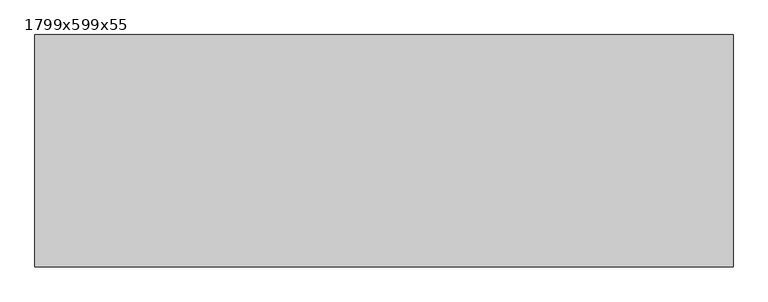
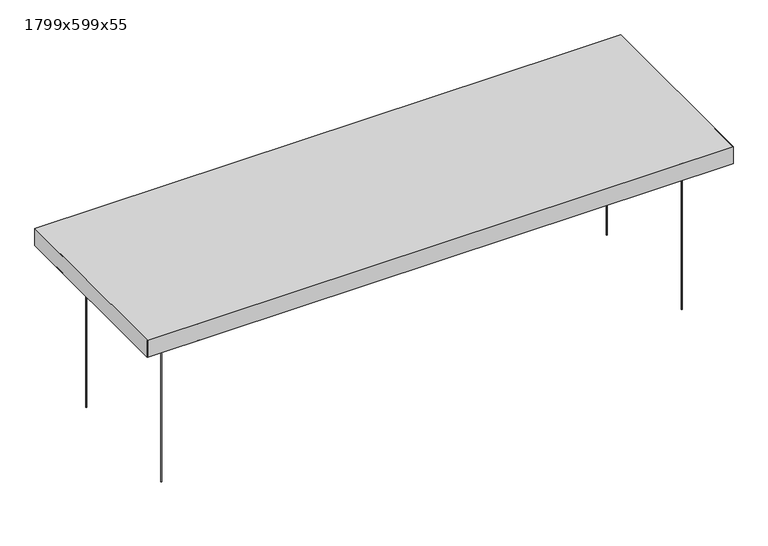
"""IFC4 building model written with IfcOpenShell, lengths in millimetres: proxy geometry, Texaa Panneaux_acoustiques Stereo suspendus_séparés : 1799x599x55."""

from ifc_helpers import new_model, si_unit, point, frame, frame_2d, origin, origin_with_axes, place, context, project, spatial, polyline, circle_curve, trimmed, segment, composite_curve, outline, extrude, faceted_brep, source, transform, mapped, element, save


def proxy_1799x599x55_415995dc(model_context):
    return source(origin(), model_context, "Body", "SolidModel", [
        extrude(outline(composite_curve([segment(trimmed(circle_curve(frame_2d((-799.5, -199.5)), 0.75), [point((-800.25, -199.5))], [point((-798.75, -199.5))], False, "CARTESIAN"), True, "CONTINUOUS"), segment(trimmed(circle_curve(frame_2d((-799.5, -199.5)), 0.75), [point((-798.75, -199.5))], [point((-800.25, -199.5))], False, "CARTESIAN"), True, "CONTINUOUS")], self_intersect=False)), origin_with_axes(), (0.0, 0.0, 1.0), 500.0),
        extrude(outline(composite_curve([segment(trimmed(circle_curve(frame_2d((799.5, -199.5)), 0.75), [point((798.75, -199.5))], [point((800.25, -199.5))], False, "CARTESIAN"), True, "CONTINUOUS"), segment(trimmed(circle_curve(frame_2d((799.5, -199.5)), 0.75), [point((800.25, -199.5))], [point((798.75, -199.5))], False, "CARTESIAN"), True, "CONTINUOUS")], self_intersect=False)), origin_with_axes(), (0.0, 0.0, 1.0), 500.0),
        extrude(outline(composite_curve([segment(trimmed(circle_curve(frame_2d((799.5, 199.5)), 0.75), [point((798.75, 199.5))], [point((800.25, 199.5))], False, "CARTESIAN"), True, "CONTINUOUS"), segment(trimmed(circle_curve(frame_2d((799.5, 199.5)), 0.75), [point((800.25, 199.5))], [point((798.75, 199.5))], False, "CARTESIAN"), True, "CONTINUOUS")], self_intersect=False)), origin_with_axes(), (0.0, 0.0, 1.0), 500.0),
        extrude(outline(composite_curve([segment(trimmed(circle_curve(frame_2d((-799.5, 199.5)), 0.75), [point((-800.25, 199.5))], [point((-798.75, 199.5))], False, "CARTESIAN"), True, "CONTINUOUS"), segment(trimmed(circle_curve(frame_2d((-799.5, 199.5)), 0.75), [point((-798.75, 199.5))], [point((-800.25, 199.5))], False, "CARTESIAN"), True, "CONTINUOUS")], self_intersect=False)), origin_with_axes(), (0.0, 0.0, 1.0), 500.0),
        extrude(outline(polyline([(-898.5, -298.5), (-898.5, 298.5), (898.5, 298.5), (898.5, -298.5), (-898.5, -298.5)])), frame((0.0, 0.0, 501.0), z_axis=(0.0, 0.0, 1.0), x_axis=(1.0, 0.0, 0.0)), (0.0, 0.0, 1.0), 53.0),
        faceted_brep([(899.5, 299.5, 555.0), (896.3345546, 299.5, 555.0), (725.4005034, 299.5, 555.0), (-899.5, 299.5, 555.0), (-899.5, -241.5313516, 555.0), (-899.5, -298.4460246, 555.0), (-899.5, -299.5, 555.0), (899.5, -299.5, 555.0), (-899.5, -299.5, 500.0), (-899.5, 299.5, 500.0), (899.5, 299.5, 500.0), (899.5, -299.5, 500.0), (-849.5, 249.5, 500.0), (-849.5, -249.5, 500.0), (849.5, -249.5, 500.0), (849.5, 249.5, 500.0), (-899.5, -299.5, 554.0), (899.5, 299.5, 554.0), (849.5, 249.5, 501.0), (-849.5, 249.5, 501.0), (849.5, -249.5, 501.0), (-849.5, -249.5, 501.0), (898.5, -298.5, 554.0), (-896.4966611, -298.5, 554.0), (-898.5, -298.5, 554.0), (-898.5, -298.1130618, 554.0), (-898.5, -241.1983888, 554.0), (-898.5, 298.5, 554.0), (722.3971645, 298.5, 554.0), (893.3312157, 298.5, 554.0), (896.4966611, 298.5, 554.0), (898.5, 298.5, 554.0), (-898.5, -298.5, 501.0), (898.5, -298.5, 501.0), (898.5, 298.5, 501.0), (-898.5, 298.5, 501.0)], [[[0, 1, 2, 3, 4, 5, 6, 7]], [[8, 9, 10, 11], [12, 13, 14, 15]], [[8, 16, 6, 5, 4, 3, 9]], [[9, 3, 2, 1, 0, 17, 10]], [[7, 11, 10, 17, 0]], [[6, 16, 8, 11, 7]], [[12, 15, 18, 19]], [[15, 14, 20, 18]], [[14, 13, 21, 20]], [[19, 21, 13, 12]], [[22, 23, 24, 25, 26, 27, 28, 29, 30, 31]], [[32, 33, 34, 35], [18, 20, 21, 19]], [[35, 27, 26, 25, 24, 32]], [[34, 31, 30, 29, 28, 27, 35]], [[31, 34, 33, 22]], [[32, 24, 23, 22, 33]]]),
    ])


if __name__ == "__main__":
    model = new_model("IFC4")
    model_context = context("Model", 3, world=origin())
    ifc_project = project(units=[si_unit("LENGTHUNIT", "METRE", prefix="MILLI")], contexts=[model_context])
    site = spatial("IfcSite", under=ifc_project)
    building = spatial("IfcBuilding", under=site)
    placement = place(None, origin())
    proxy_1799x599x55_shape = proxy_1799x599x55_415995dc(model_context)
    element("IfcBuildingElementProxy", 1, Name="Texaa Panneaux_acoustiques Stereo suspendus_séparés : 1799x599x55", ObjectType="Texaa Panneaux_acoustiques Stereo suspendus_séparés : 1799x599x55", at=placement, inside=building, context=model_context, shape_type="MappedRepresentation", body=[
        mapped(proxy_1799x599x55_shape, transform((0.0, 0.0, 0.0), x_axis=(1.0, 0.0, 0.0), y_axis=(0.0, 1.0, 0.0), z_axis=(0.0, 0.0, 1.0))),
    ])
    save(model, "model.ifc")
